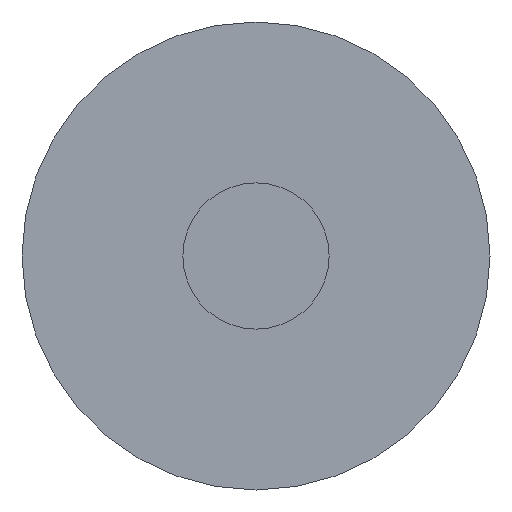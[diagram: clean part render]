
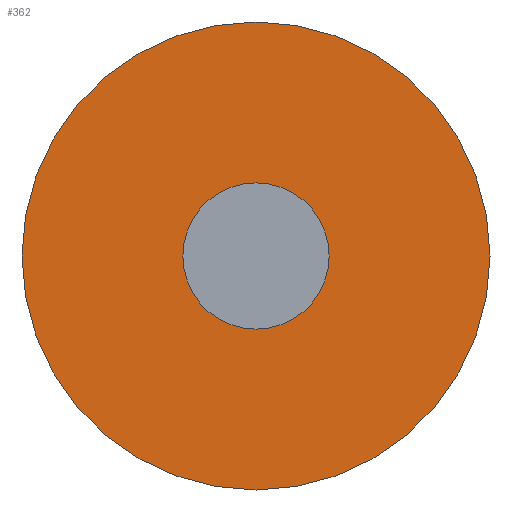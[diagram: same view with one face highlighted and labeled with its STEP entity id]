
A CAD part, front view. The second image highlights one B-rep face of the part: STEP entity #362.
In plain terms, the highlighted planar face has unit normal (0, -1, 0).
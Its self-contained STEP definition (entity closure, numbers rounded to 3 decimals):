
#89=CARTESIAN_POINT('',(0.,0.5,0.));
#90=DIRECTION('',(0.,-1.,0.));
#91=DIRECTION('',(0.,0.,-1.));
#92=AXIS2_PLACEMENT_3D('',#89,#90,#91);
#98=CARTESIAN_POINT('',(0.,0.5,0.));
#99=DIRECTION('',(0.,1.,0.));
#100=DIRECTION('',(0.,0.,-1.));
#101=AXIS2_PLACEMENT_3D('',#98,#99,#100);
#103=CARTESIAN_POINT('',(0.,0.5,0.));
#104=DIRECTION('',(0.,1.,0.));
#105=DIRECTION('',(0.,0.,-1.));
#106=AXIS2_PLACEMENT_3D('',#103,#104,#105);
#108=CARTESIAN_POINT('',(0.,0.5,0.));
#109=DIRECTION('',(0.,-1.,0.));
#110=DIRECTION('',(0.,0.,-1.));
#111=AXIS2_PLACEMENT_3D('',#108,#109,#110);
#158=CARTESIAN_POINT('',(0.,0.5,-0.25));
#160=VERTEX_POINT('',#158);
#161=CARTESIAN_POINT('',(0.,0.5,-0.8));
#163=VERTEX_POINT('',#161);
#176=CARTESIAN_POINT('',(0.,0.5,0.25));
#178=VERTEX_POINT('',#176);
#179=CARTESIAN_POINT('',(0.,0.5,0.8));
#181=VERTEX_POINT('',#179);
#347=CARTESIAN_POINT('',(0.,0.5,0.));
#348=DIRECTION('',(0.,1.,0.));
#349=DIRECTION('',(0.,0.,-1.));
#350=AXIS2_PLACEMENT_3D('',#347,#348,#349);
#351=PLANE('',#350);
#352=ORIENTED_EDGE('',*,*,#326,.F.);
#353=ORIENTED_EDGE('',*,*,#342,.T.);
#354=EDGE_LOOP('',(#352,#353));
#355=FACE_OUTER_BOUND('',#354,.F.);
#357=ORIENTED_EDGE('',*,*,#356,.F.);
#359=ORIENTED_EDGE('',*,*,#358,.T.);
#360=EDGE_LOOP('',(#357,#359));
#361=FACE_BOUND('',#360,.F.);
#362=ADVANCED_FACE('',(#355,#361),#351,.F.);
#93=CIRCLE('',#92,0.8);
#102=CIRCLE('',#101,0.8);
#107=CIRCLE('',#106,0.25);
#112=CIRCLE('',#111,0.25);
#326=EDGE_CURVE('',#163,#181,#93,.T.);
#342=EDGE_CURVE('',#163,#181,#102,.T.);
#356=EDGE_CURVE('',#160,#178,#107,.T.);
#358=EDGE_CURVE('',#160,#178,#112,.T.);
